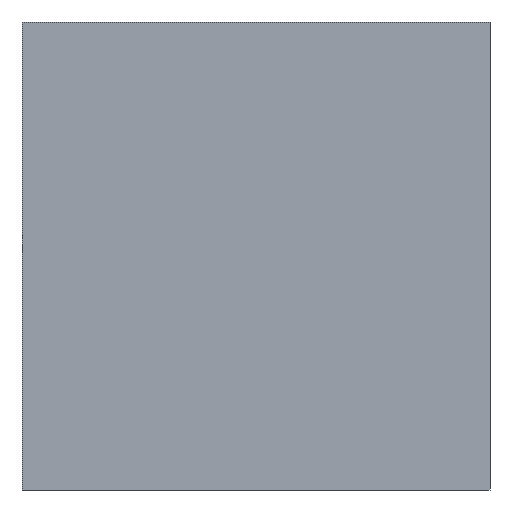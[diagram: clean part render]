
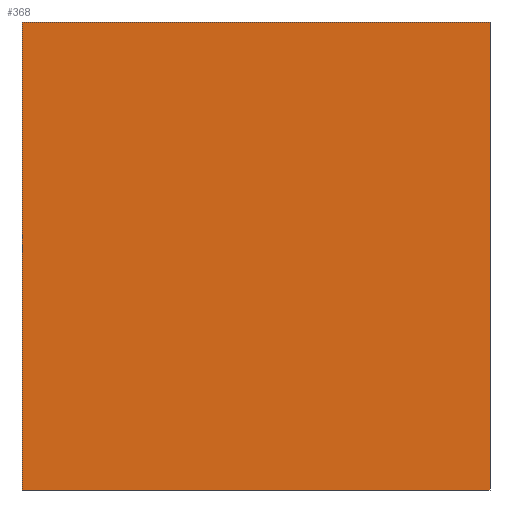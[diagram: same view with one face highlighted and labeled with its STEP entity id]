
A CAD part, front view. The second image highlights one B-rep face of the part: STEP entity #368.
In plain terms, the highlighted planar face has unit normal (0, -1, 0).
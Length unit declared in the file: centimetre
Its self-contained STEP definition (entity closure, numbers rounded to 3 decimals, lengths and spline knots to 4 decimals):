
#4 = CARTESIAN_POINT ( 'NONE',  ( 0., 0., 1000. ) ) ;
#6 = VECTOR ( 'NONE', #300, 100. ) ;
#64 = EDGE_CURVE ( 'NONE', #207, #134, #79, .T. ) ;
#75 = LINE ( 'NONE', #217, #6 ) ;
#79 = LINE ( 'NONE', #433, #274 ) ;
#83 = VECTOR ( 'NONE', #357, 100. ) ;
#117 = EDGE_CURVE ( 'NONE', #280, #287, #75, .T. ) ;
#118 = FACE_OUTER_BOUND ( 'NONE', #291, .T. ) ;
#134 = VERTEX_POINT ( 'NONE', #189 ) ;
#145 = CARTESIAN_POINT ( 'NONE',  ( 0., 0., 1000. ) ) ;
#156 = CARTESIAN_POINT ( 'NONE',  ( 1000., 0., 1000. ) ) ;
#163 = ORIENTED_EDGE ( 'NONE', *, *, #206, .F. ) ;
#171 = ORIENTED_EDGE ( 'NONE', *, *, #117, .T. ) ;
#189 = CARTESIAN_POINT ( 'NONE',  ( 1000., 0., 1000. ) ) ;
#192 = DIRECTION ( 'NONE',  ( 0., 1., 0. ) ) ;
#202 = ORIENTED_EDGE ( 'NONE', *, *, #64, .F. ) ;
#206 = EDGE_CURVE ( 'NONE', #134, #287, #440, .T. ) ;
#207 = VERTEX_POINT ( 'NONE', #4 ) ;
#217 = CARTESIAN_POINT ( 'NONE',  ( 0., 0., 0. ) ) ;
#219 = DIRECTION ( 'NONE',  ( 0., 0., -1. ) ) ;
#221 = DIRECTION ( 'NONE',  ( 1., 0., 0. ) ) ;
#235 = ORIENTED_EDGE ( 'NONE', *, *, #279, .T. ) ;
#253 = CARTESIAN_POINT ( 'NONE',  ( 1000., 0., 0. ) ) ;
#274 = VECTOR ( 'NONE', #221, 100. ) ;
#279 = EDGE_CURVE ( 'NONE', #207, #280, #460, .T. ) ;
#280 = VERTEX_POINT ( 'NONE', #299 ) ;
#287 = VERTEX_POINT ( 'NONE', #253 ) ;
#291 = EDGE_LOOP ( 'NONE', ( #171, #163, #202, #235 ) ) ;
#299 = CARTESIAN_POINT ( 'NONE',  ( 0., 0., 0. ) ) ;
#300 = DIRECTION ( 'NONE',  ( 1., 0., 0. ) ) ;
#309 = CARTESIAN_POINT ( 'NONE',  ( 0., 0., 1000. ) ) ;
#314 = VECTOR ( 'NONE', #219, 100. ) ;
#357 = DIRECTION ( 'NONE',  ( 0., 0., -1. ) ) ;
#361 = DIRECTION ( 'NONE',  ( 0., 0., 1. ) ) ;
#368 = ADVANCED_FACE ( 'NONE', ( #118 ), #396, .F. ) ;
#396 = PLANE ( 'NONE',  #469 ) ;
#433 = CARTESIAN_POINT ( 'NONE',  ( 0., 0., 1000. ) ) ;
#440 = LINE ( 'NONE', #156, #83 ) ;
#460 = LINE ( 'NONE', #145, #314 ) ;
#469 = AXIS2_PLACEMENT_3D ( 'NONE', #309, #192, #361 ) ;
